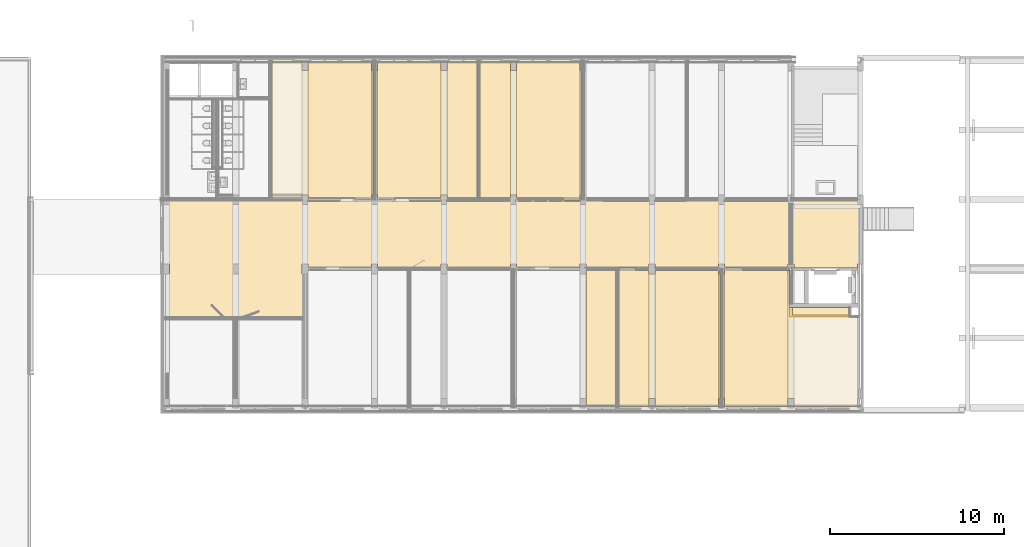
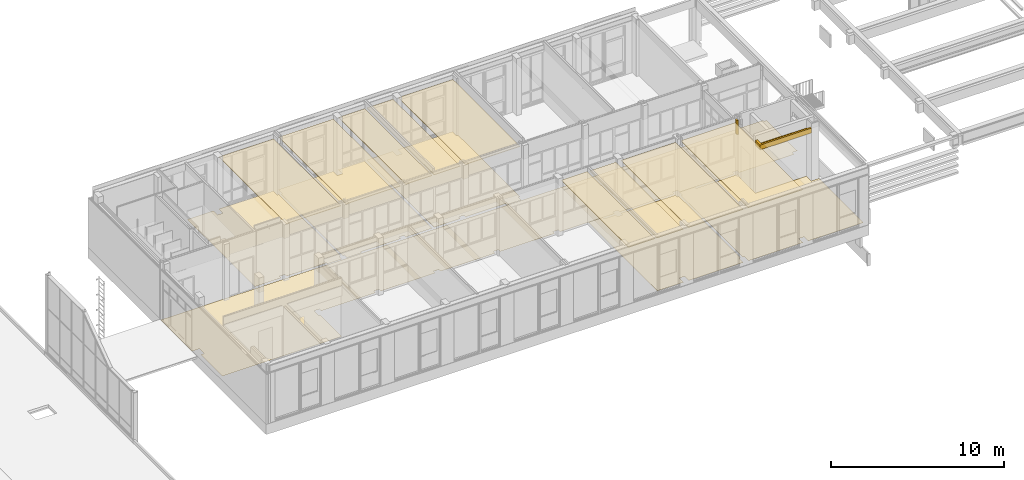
# One storey, part 45 of 54: 18 coverings.
"""IFC2X3 building model written with IfcOpenShell, lengths in millimetres."""

from ifc_helpers import new_model, entity, si_unit, converted_unit, derived_unit, money_unit, direction, frame, origin_with_axes, place, context, subcontext, project, spatial, faceted_brep, material, type_object, element, save


model = new_model("IFC2X3")

# Units and contexts
model_context = context("Model", 3, precision=0.01, world=origin_with_axes(), true_north=direction((0.0, 1.0)))
body_context = subcontext(model_context, "Body", "Model", "MODEL_VIEW")
ifc_project = project(units=[si_unit("LENGTHUNIT", "METRE", prefix="MILLI"), si_unit("AREAUNIT", "SQUARE_METRE"), si_unit("VOLUMEUNIT", "CUBIC_METRE"), converted_unit("PLANEANGLEUNIT", "DEGREE", entity("IfcPlaneAngleMeasure", 0.0174532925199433), si_unit("PLANEANGLEUNIT", "RADIAN"), dimensions=[0, 0, 0, 0, 0, 0, 0]), money_unit("EUR"), converted_unit("TIMEUNIT", "Year", entity("IfcTimeMeasure", 31557600.0), si_unit("TIMEUNIT", "SECOND"), dimensions=[0, 0, 1, 0, 0, 0, 0]), si_unit("MASSUNIT", "GRAM", prefix="KILO"), si_unit("THERMODYNAMICTEMPERATUREUNIT", "DEGREE_CELSIUS"), si_unit("LUMINOUSINTENSITYUNIT", "LUMEN"), si_unit("ENERGYUNIT", "JOULE", prefix="MEGA"), derived_unit("THERMALCONDUCTANCEUNIT", [(si_unit("POWERUNIT", "WATT"), 1), (si_unit("LENGTHUNIT", "METRE"), -1), (si_unit("THERMODYNAMICTEMPERATUREUNIT", "KELVIN"), -1)]), derived_unit("SPECIFICHEATCAPACITYUNIT", [(si_unit("ENERGYUNIT", "JOULE"), 1), (si_unit("MASSUNIT", "GRAM", prefix="KILO"), -1), (si_unit("THERMODYNAMICTEMPERATUREUNIT", "KELVIN"), -1)]), derived_unit("MASSDENSITYUNIT", [(si_unit("MASSUNIT", "GRAM", prefix="KILO"), 1), (si_unit("VOLUMEUNIT", "CUBIC_METRE"), -1)])], contexts=[model_context])

# Site, building, storey
site_placement = place(None, origin_with_axes())
site = spatial("IfcSite", under=ifc_project, at=site_placement, Name="<site naam>", CompositionType="ELEMENT")
building_placement = place(site_placement, origin_with_axes())
building = spatial("IfcBuilding", under=site, at=building_placement, Name="<Naam gebouw>", CompositionType="ELEMENT")
storey_placement = place(building_placement, frame((0.0, 0.0, 8500.0), z_axis=(0.0, 0.0, 1.0), x_axis=(1.0, 0.0, 0.0)))
storey = spatial("IfcBuildingStorey", under=building, at=storey_placement, Name="02 2e verdieping", CompositionType="ELEMENT", Elevation=8500.0)

# Coverings
ifc_material_1 = material(Name="systeemplafond 600*600 kleur wit")
covering_type_1 = type_object("IfcCoveringType", Name="PA-01a 40", PredefinedType="CEILING")
covering_1_placement = place(storey_placement, frame((24175.00012509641, 12275.00006165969, 3699.999999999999), z_axis=(0.0, 0.0, 1.0), x_axis=(1.0, 0.0, 0.0)))
element("IfcCovering", 1, at=covering_1_placement, inside=storey, type_object=covering_type_1, material=ifc_material_1, Name="45_Vloer_PA-01a", PredefinedType="CEILING", context=body_context, shape_type="Brep", body=[
    faceted_brep([(0.0, -182.9907721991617, 40.00000000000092), (0.0, -182.9907721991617, 0.0), (3649.999812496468, -182.9907721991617, 0.0), (3649.999812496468, -182.9907721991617, 40.00000000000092), (0.0, 7608.99992199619, 40.00000000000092), (0.0, 7608.99992199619, 0.0), (3649.999874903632, 7608.99992199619, 0.0), (3649.999874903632, 7174.999874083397, 0.0), (3650.019268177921, 7174.999874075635, 0.0), (3650.019268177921, 0.0, 0.0), (3649.999812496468, 0.0, 0.0), (3649.999812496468, 0.0, 40.00000000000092), (3650.019268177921, 0.0, 40.00000000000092), (3650.019268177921, 7174.999874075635, 40.00000000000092), (3649.999874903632, 7174.999874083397, 40.00000000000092), (3649.999874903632, 7608.99992199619, 40.00000000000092)], [[[0, 1, 2, 3]], [[4, 5, 1, 0]], [[1, 5, 6, 7, 8, 9, 10, 2]], [[3, 2, 10, 11]], [[0, 3, 11, 12, 13, 14, 15, 4]], [[15, 6, 5, 4]], [[14, 7, 6, 15]], [[13, 8, 7, 14]], [[12, 9, 8, 13]], [[11, 10, 9, 12]]]),
])
covering_2_placement = place(storey_placement, frame((31824.99990855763, 19924.99986616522, 3699.999999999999), z_axis=(0.0, 0.0, 1.0), x_axis=(1.0, 0.0, 0.0)))
element("IfcCovering", 2, at=covering_2_placement, inside=storey, type_object=covering_type_1, material=ifc_material_1, Name="45_Vloer_PA-01a", PredefinedType="CEILING", context=body_context, shape_type="Brep", body=[
    faceted_brep([(0.0, -7832.990463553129, 0.0), (0.0, -34.49986616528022, 0.0), (0.0, -34.49986616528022, 40.00000000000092), (0.0, -7832.990463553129, 40.00000000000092), (-1750.001682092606, -7832.990463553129, 0.0), (-1750.001682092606, -34.49986616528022, 0.0), (-1750.001682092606, -34.49986616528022, 39.99999999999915), (-1750.001682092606, -7832.990463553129, 40.00000000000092)], [[[0, 1, 2, 3]], [[4, 5, 1, 0]], [[5, 6, 2, 1]], [[3, 2, 6, 7]], [[3, 7, 4, 0]], [[7, 6, 5, 4]]]),
])
covering_3_placement = place(storey_placement, frame((39824.99997312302, 7923.199657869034, 3699.999999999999), z_axis=(0.0, 0.0, 1.0), x_axis=(1.0, 0.0, 0.0)))
element("IfcCovering", 3, at=covering_3_placement, inside=storey, type_object=covering_type_1, material=ifc_material_1, Name="45_Vloer_PA-01a", PredefinedType="CEILING", context=body_context, shape_type="Brep", body=[
    faceted_brep([(0.0, 0.0, 40.00000000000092), (0.0, 0.0, 0.0), (-1750.02700391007, 0.0, 0.0), (-1750.02700391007, 0.0, 40.00000000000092), (0.0, -7807.199657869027, 40.00000000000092), (0.0, -7807.199657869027, 0.0), (-1750.02700391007, -7807.199657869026, 0.0), (-1750.02700391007, -7807.199657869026, 40.00000000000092)], [[[0, 1, 2, 3]], [[4, 5, 1, 0]], [[2, 1, 5, 6]], [[3, 2, 6, 7]], [[0, 3, 7, 4]], [[7, 6, 5, 4]]]),
])
covering_4_placement = place(storey_placement, frame((44175.00020304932, 549.9997773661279, 3699.999999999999), z_axis=(0.0, 0.0, 1.0), x_axis=(1.0, 0.0, 0.0)))
element("IfcCovering", 4, at=covering_4_placement, inside=storey, type_object=covering_type_1, material=ifc_material_1, Name="45_Vloer_PA-01a", PredefinedType="CEILING", context=body_context, shape_type="Brep", body=[
    faceted_brep([(0.0, -433.999777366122, 40.00000000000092), (0.0, -433.999777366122, 0.0), (3649.999675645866, -433.9997773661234, 0.0), (3649.999675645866, -433.9997773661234, 40.00000000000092), (0.0, 7375.000184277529, 40.00000000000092), (0.0, 7375.000184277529, 0.0), (3649.999675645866, 7375.000184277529, 0.0), (3649.999675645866, 7375.000184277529, 40.00000000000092)], [[[0, 1, 2, 3]], [[4, 5, 1, 0]], [[1, 5, 6, 2]], [[3, 2, 6, 7]], [[0, 3, 7, 4]], [[7, 6, 5, 4]]]),
])
covering_5_placement = place(storey_placement, frame((40175.00009531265, 549.9998778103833, 3699.999999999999), z_axis=(0.0, 0.0, 1.0), x_axis=(1.0, 0.0, 0.0)))
element("IfcCovering", 5, at=covering_5_placement, inside=storey, type_object=covering_type_1, material=ifc_material_1, Name="45_Vloer_PA-01a", PredefinedType="CEILING", context=body_context, shape_type="Brep", body=[
    faceted_brep([(3649.999999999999, -433.9998778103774, 0.0), (3649.999999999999, 7387.500122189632, 0.0), (3649.999999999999, 7387.500122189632, 40.00000000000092), (3649.999999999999, -433.9998778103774, 40.00000000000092), (0.0, -433.9998778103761, 0.0), (0.0, 7387.500122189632, 0.0), (0.0, 7387.500122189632, 40.00000000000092), (0.0, -433.9998778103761, 40.00000000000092)], [[[0, 1, 2, 3]], [[4, 5, 1, 0]], [[5, 6, 2, 1]], [[3, 2, 6, 7]], [[3, 7, 4, 0]], [[7, 6, 5, 4]]]),
])
covering_6_placement = place(storey_placement, frame((36174.99987781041, 7923.199657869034, 3699.999999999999), z_axis=(0.0, 0.0, 1.0), x_axis=(1.0, 0.0, 0.0)))
element("IfcCovering", 6, at=covering_6_placement, inside=storey, type_object=covering_type_1, material=ifc_material_1, Name="45_Vloer_PA-01a", PredefinedType="CEILING", context=body_context, shape_type="Brep", body=[
    faceted_brep([(0.0, 0.0, 40.00000000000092), (0.0, 0.0, 0.0), (0.0, -7807.199657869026, 0.0), (0.0, -7807.199657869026, 40.00000000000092), (1748.760386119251, 0.0, 40.00000000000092), (1748.760386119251, 0.0, 0.0), (1748.760386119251, -7807.199657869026, 0.0), (1748.760386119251, -7807.199657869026, 40.00000000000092)], [[[0, 1, 2, 3]], [[4, 5, 1, 0]], [[1, 5, 6, 2]], [[3, 2, 6, 7]], [[4, 0, 3, 7]], [[7, 6, 5, 4]]]),
])
covering_7_placement = place(storey_placement, frame((20174.99998405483, 19449.99995761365, 3699.999999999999), z_axis=(0.0, 0.0, 1.0), x_axis=(1.0, 0.0, 0.0)))
element("IfcCovering", 7, at=covering_7_placement, inside=storey, type_object=covering_type_1, material=ifc_material_1, Name="45_Vloer_PA-01a", PredefinedType="CEILING", context=body_context, shape_type="Brep", body=[
    faceted_brep([(3649.999970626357, -7357.990671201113, 0.0), (3649.999970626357, 440.5000423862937, 0.0), (3649.999970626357, 440.5000423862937, 40.00000000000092), (3649.999970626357, -7357.990671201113, 40.00000000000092), (0.0, -7357.990671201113, 0.0), (0.0, 440.5000423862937, 0.0), (0.0, 440.5000423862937, 39.99999999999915), (0.0, -7357.990671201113, 40.00000000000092)], [[[0, 1, 2, 3]], [[4, 5, 1, 0]], [[5, 6, 2, 1]], [[3, 2, 6, 7]], [[3, 7, 4, 0]], [[7, 6, 5, 4]]]),
])
covering_8_placement = place(storey_placement, frame((28174.99991393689, 19449.99994196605, 3699.999999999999), z_axis=(0.0, 0.0, 1.0), x_axis=(1.0, 0.0, 0.0)))
element("IfcCovering", 8, at=covering_8_placement, inside=storey, type_object=covering_type_1, material=ifc_material_1, Name="45_Vloer_PA-01a", PredefinedType="CEILING", context=body_context, shape_type="Brep", body=[
    faceted_brep([(1749.91448178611, -7357.990652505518, 0.0), (1749.91448178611, 440.5000580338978, 0.0), (1749.91448178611, 440.5000580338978, 40.00000000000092), (1749.91448178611, -7357.990652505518, 40.00000000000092), (0.0, -7357.990652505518, 0.0), (0.0, 440.5000580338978, 0.0), (0.0, 440.5000580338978, 39.99999999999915), (0.0, -7357.990652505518, 40.00000000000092)], [[[0, 1, 2, 3]], [[4, 5, 1, 0]], [[5, 6, 2, 1]], [[3, 2, 6, 7]], [[3, 7, 4, 0]], [[7, 6, 5, 4]]]),
])
covering_9_placement = place(storey_placement, frame((32175.0000250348, 19924.99986616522, 3699.999999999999), z_axis=(0.0, 0.0, 1.0), x_axis=(1.0, 0.0, 0.0)))
element("IfcCovering", 9, at=covering_9_placement, inside=storey, type_object=covering_type_1, material=ifc_material_1, Name="45_Vloer_PA-01a", PredefinedType="CEILING", context=body_context, shape_type="Brep", body=[
    faceted_brep([(3649.999940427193, -7832.990463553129, 0.0), (3649.999940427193, -34.49986616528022, 0.0), (3649.999940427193, -34.49986616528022, 40.00000000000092), (3649.999940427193, -7832.990463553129, 40.00000000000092), (0.0, -7832.990463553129, 0.0), (0.0, -34.49986616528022, 0.0), (0.0, -34.49986616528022, 39.99999999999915), (0.0, -7832.990463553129, 40.00000000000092)], [[[0, 1, 2, 3]], [[4, 5, 1, 0]], [[5, 6, 2, 1]], [[3, 2, 6, 7]], [[3, 7, 4, 0]], [[7, 6, 5, 4]]]),
])
ifc_material_2 = material(Name="Vinyl type 01b")
covering_type_2 = type_object("IfcCoveringType", Name="VA-01b 3", PredefinedType="CEILING")
covering_10_placement = place(storey_placement, frame((11665.00000000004, 8275.591084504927, 0.0), z_axis=(0.0, 0.0, 1.0), x_axis=(1.0, 0.0, 0.0)))
element("IfcCovering", 10, at=covering_10_placement, inside=storey, type_object=covering_type_2, material=ifc_material_2, Name="43_Vloer_VA-01b", PredefinedType="CEILING", context=body_context, shape_type="Brep", body=[
    faceted_brep([(0.0, 0.0, 3.000000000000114), (0.0, 0.0, 0.0), (510.0000000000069, 0.0, 0.0), (510.0000000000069, 0.0, 3.000000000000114), (0.0, 3649.408915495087, 3.000000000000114), (0.0, 3649.408915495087, 0.0), (40334.99999999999, 3649.408915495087, 0.0), (40335.00000000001, 3549.408915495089, 0.0), (40509.39999999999, 3549.408915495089, 0.0), (40509.39999999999, -0.591027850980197, 0.0), (40160.00000000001, -0.5910845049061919, 0.0), (40160.00000000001, -220.591085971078, 0.0), (36510.00000000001, -220.591085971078, 0.0), (36510.00000000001, -0.5910845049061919, 0.0), (36160.00000000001, -0.5910845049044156, 0.0), (36159.999999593, -200.5910924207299, 0.0), (32510.0, -200.5910849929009, 0.0), (32510.0, -0.5910845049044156, 0.0), (32160.00000000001, -0.5910845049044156, 0.0), (32160.00000000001, -200.5910842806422, 0.0), (28510.0, -200.5910768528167, 0.0), (28510.0, -0.5910845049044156, 0.0), (28160.00000000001, -0.5910845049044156, 0.0), (28160.00000000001, -200.591076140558, 0.0), (24510.0, -200.591068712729, 0.0), (24510.0, -0.5910845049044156, 0.0), (24160.00000000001, -0.5910845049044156, 0.0), (24160.00000000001, -200.5910680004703, 0.0), (20510.0, -200.5910605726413, 0.0), (20510.0, -0.5910845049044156, 0.0), (20160.0, -0.5910845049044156, 0.0), (20160.0, -200.5910598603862, 0.0), (16510.0, -200.5910524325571, 0.0), (16510.0, -0.5910845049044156, 0.0), (16160.0, -0.5910845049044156, 0.0), (16160.0, -200.591051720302, 0.0), (12510.00000000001, -200.591044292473, 0.0), (12510.00000000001, -0.5910845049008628, 0.0), (12160.0, -0.5910845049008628, 0.0), (12160.0, -200.5910435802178, 0.0), (8510.000000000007, -200.5910361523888, 0.0), (8510.000000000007, -0.5910845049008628, 0.0), (8160.000000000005, -0.5910845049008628, 0.0), (8160.000000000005, -550.5910845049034, 0.0), (8258.720922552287, -550.5910845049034, 0.0), (8258.720978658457, -3050.5910845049, 0.0), (270.0000000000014, -3050.5910845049, 0.0), (270.0000000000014, -550.5910845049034, 0.0), (510.0000000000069, -550.5910845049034, 0.0), (510.0000000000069, -550.5910845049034, 3.000000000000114), (270.0000000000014, -550.5910845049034, 3.000000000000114), (270.0000000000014, -3050.5910845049, 3.000000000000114), (8258.720978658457, -3050.5910845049, 3.000000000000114), (8258.720922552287, -550.5910845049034, 3.000000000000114), (8160.000000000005, -550.5910845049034, 3.000000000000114), (8160.000000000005, -0.5910845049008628, 3.000000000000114), (8510.000000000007, -0.5910845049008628, 3.000000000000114), (8510.000000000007, -200.5910361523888, 3.000000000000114), (12160.0, -200.5910435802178, 3.000000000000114), (12160.0, -0.5910845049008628, 3.000000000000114), (12510.00000000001, -0.5910845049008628, 3.000000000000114), (12510.00000000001, -200.591044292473, 3.000000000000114), (16160.0, -200.591051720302, 3.000000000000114), (16160.0, -0.5910845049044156, 3.000000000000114), (16510.0, -0.5910845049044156, 3.000000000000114), (16510.0, -200.5910524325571, 3.000000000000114), (20160.0, -200.5910598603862, 3.000000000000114), (20160.0, -0.5910845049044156, 3.000000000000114), (20510.0, -0.5910845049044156, 3.000000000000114), (20510.0, -200.5910605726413, 3.000000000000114), (24160.00000000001, -200.5910680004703, 3.000000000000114), (24160.00000000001, -0.5910845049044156, 3.000000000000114), (24510.0, -0.5910845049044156, 3.000000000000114), (24510.0, -200.591068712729, 3.000000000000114), (28160.00000000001, -200.591076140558, 3.000000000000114), (28160.00000000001, -0.5910845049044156, 3.000000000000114), (28510.0, -0.5910845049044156, 3.000000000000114), (28510.0, -200.5910768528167, 3.000000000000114), (32160.00000000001, -200.5910842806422, 3.000000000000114), (32160.00000000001, -0.5910845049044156, 3.000000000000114), (32510.0, -0.5910845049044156, 3.000000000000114), (32510.0, -200.5910849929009, 3.000000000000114), (36159.999999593, -200.5910924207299, 3.000000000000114), (36160.00000000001, -0.5910845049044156, 3.000000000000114), (36510.00000000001, -0.5910845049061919, 3.000000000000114), (36510.00000000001, -220.591085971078, 3.000000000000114), (40160.00000000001, -220.591085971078, 3.000000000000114), (40160.00000000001, -0.5910845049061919, 3.000000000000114), (40509.39999999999, -0.591027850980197, 3.000000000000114), (40509.39999999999, 3549.408915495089, 3.000000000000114), (40335.00000000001, 3549.408915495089, 3.000000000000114), (40334.99999999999, 3649.408915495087, 3.000000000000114)], [[[0, 1, 2, 3]], [[4, 5, 1, 0]], [[1, 5, 6, 7, 8, 9, 10, 11, 12, 13, 14, 15, 16, 17, 18, 19, 20, 21, 22, 23, 24, 25, 26, 27, 28, 29, 30, 31, 32, 33, 34, 35, 36, 37, 38, 39, 40, 41, 42, 43, 44, 45, 46, 47, 48, 2]], [[3, 2, 48, 49]], [[0, 3, 49, 50, 51, 52, 53, 54, 55, 56, 57, 58, 59, 60, 61, 62, 63, 64, 65, 66, 67, 68, 69, 70, 71, 72, 73, 74, 75, 76, 77, 78, 79, 80, 81, 82, 83, 84, 85, 86, 87, 88, 89, 90, 91, 4]], [[91, 6, 5, 4]], [[90, 7, 6, 91]], [[89, 8, 7, 90]], [[88, 9, 8, 89]], [[87, 10, 9, 88]], [[86, 11, 10, 87]], [[85, 12, 11, 86]], [[84, 13, 12, 85]], [[83, 14, 13, 84]], [[82, 15, 14, 83]], [[81, 16, 15, 82]], [[80, 17, 16, 81]], [[79, 18, 17, 80]], [[78, 19, 18, 79]], [[77, 20, 19, 78]], [[76, 21, 20, 77]], [[75, 22, 21, 76]], [[74, 23, 22, 75]], [[73, 24, 23, 74]], [[72, 25, 24, 73]], [[71, 26, 25, 72]], [[70, 27, 26, 71]], [[69, 28, 27, 70]], [[68, 29, 28, 69]], [[67, 30, 29, 68]], [[66, 31, 30, 67]], [[65, 32, 31, 66]], [[64, 33, 32, 65]], [[63, 34, 33, 64]], [[62, 35, 34, 63]], [[61, 36, 35, 62]], [[60, 37, 36, 61]], [[59, 38, 37, 60]], [[58, 39, 38, 59]], [[57, 40, 39, 58]], [[56, 41, 40, 57]], [[55, 42, 41, 56]], [[54, 43, 42, 55]], [[53, 44, 43, 54]], [[52, 45, 44, 53]], [[51, 46, 45, 52]], [[50, 47, 46, 51]], [[49, 48, 47, 50]]]),
])
ifc_material_3 = material(Name="Vinyl type 01a")
covering_type_3 = type_object("IfcCoveringType", Name="VA-01a 3", PredefinedType="CEILING")
covering_11_placement = place(storey_placement, frame((19825.00009490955, 19924.99985320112, 19.99999999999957), z_axis=(0.0, 0.0, 1.0), x_axis=(1.0, 0.0, 0.0)))
element("IfcCovering", 11, at=covering_11_placement, inside=storey, type_object=covering_type_3, material=ifc_material_3, Name="43_Vloer_VA-01a", PredefinedType="CEILING", context=body_context, shape_type="Brep", body=[
    faceted_brep([(0.0, 0.0, 3.000000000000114), (0.0, 0.0, 0.0), (-1749.899402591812, 0.0, 0.0), (-1749.899402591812, 0.0, 3.000000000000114), (0.0, -475.0001066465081, 3.000000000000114), (0.0, -475.0001066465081, 0.0), (349.9998915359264, -475.0001066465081, 0.0), (349.9998915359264, 0.0, 0.0), (3999.999657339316, 0.0, 0.0), (3999.999657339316, -475.0001066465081, 0.0), (4099.986561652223, -475.0001066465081, 0.0), (4099.986561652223, -7649.999778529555, 0.0), (3999.999657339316, -7649.999778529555, 0.0), (3999.999657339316, -7949.861575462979, 0.0), (3055.231686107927, -7949.861575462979, 0.0), (3055.231686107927, -7839.817104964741, 0.0), (349.9998915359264, -7839.817104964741, 0.0), (349.9998915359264, -7649.999778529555, 0.0), (0.0, -7649.999778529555, 0.0), (0.0, -7839.817104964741, 0.0), (-1749.899402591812, -7839.817104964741, 0.0), (-1749.899402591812, -7839.817104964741, 3.000000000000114), (0.0, -7839.817104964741, 3.000000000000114), (0.0, -7649.999778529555, 3.000000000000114), (349.9998915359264, -7649.999778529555, 3.000000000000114), (349.9998915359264, -7839.817104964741, 3.000000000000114), (3055.231686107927, -7839.817104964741, 3.000000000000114), (3055.231686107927, -7949.861575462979, 3.000000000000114), (3999.999657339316, -7949.861575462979, 3.000000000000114), (3999.999657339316, -7649.999778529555, 3.000000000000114), (4099.986561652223, -7649.999778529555, 3.000000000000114), (4099.986561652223, -475.0001066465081, 3.000000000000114), (3999.999657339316, -475.0001066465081, 3.000000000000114), (3999.999657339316, 0.0, 3.000000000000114), (349.9998915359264, 0.0, 3.000000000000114), (349.9998915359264, -475.0001066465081, 3.000000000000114)], [[[0, 1, 2, 3]], [[4, 5, 1, 0]], [[2, 1, 5, 6, 7, 8, 9, 10, 11, 12, 13, 14, 15, 16, 17, 18, 19, 20]], [[3, 2, 20, 21]], [[4, 0, 3, 21, 22, 23, 24, 25, 26, 27, 28, 29, 30, 31, 32, 33, 34, 35]], [[35, 6, 5, 4]], [[34, 7, 6, 35]], [[33, 8, 7, 34]], [[32, 9, 8, 33]], [[31, 10, 9, 32]], [[30, 11, 10, 31]], [[29, 12, 11, 30]], [[28, 13, 12, 29]], [[27, 14, 13, 28]], [[26, 15, 14, 27]], [[25, 16, 15, 26]], [[24, 17, 16, 25]], [[23, 18, 17, 24]], [[22, 19, 18, 23]], [[21, 20, 19, 22]]]),
])
covering_12_placement = place(storey_placement, frame((44075.00011639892, 549.9993244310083, 0.0), z_axis=(0.0, 0.0, 1.0), x_axis=(1.0, 0.0, 0.0)))
element("IfcCovering", 12, at=covering_12_placement, inside=storey, type_object=covering_type_3, material=ifc_material_3, Name="43_Vloer_VA-01a", PredefinedType="CEILING", context=body_context, shape_type="Brep", body=[
    faceted_brep([(0.0, 0.0, 3.000000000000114), (0.0, 0.0, 0.0), (99.99996363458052, 0.0005028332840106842, 0.0), (99.99996363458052, 0.0005028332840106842, 3.000000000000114), (0.0, 7175.00103632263, 3.000000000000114), (0.0, 7175.00103632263, 0.0), (99.99996363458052, 7175.000659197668, 0.0), (99.99996363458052, 7525.000657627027, 0.0), (1133.999803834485, 7525.000657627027, 0.0), (1133.999803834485, 7371.61614134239, 0.0), (3909.506027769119, 7371.61614134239, 0.0), (3909.506027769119, 7175.000659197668, 0.0), (3849.999857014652, 7175.000659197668, 0.0), (3849.999857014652, 5241.000674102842, 0.0), (7277.499883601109, 5241.000674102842, 0.0), (7277.499883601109, 4678.500674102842, 0.0), (7789.999832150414, 4678.500674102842, 0.0), (7789.999832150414, -474.999324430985, 0.0), (4099.999766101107, -474.999324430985, 0.0), (4099.999766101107, 0.0005028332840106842, 0.0), (3749.999893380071, 0.0005028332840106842, 0.0), (3749.999893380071, -474.999324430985, 0.0), (99.99996363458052, -474.999324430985, 0.0), (99.99996363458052, -474.999324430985, 3.000000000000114), (3749.999893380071, -474.999324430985, 3.000000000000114), (3749.999893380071, 0.0005028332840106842, 3.000000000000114), (4099.999766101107, 0.0005028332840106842, 3.000000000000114), (4099.999766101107, -474.999324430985, 3.000000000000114), (7789.999832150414, -474.999324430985, 3.000000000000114), (7789.999832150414, 4678.500674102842, 3.000000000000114), (7277.499883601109, 4678.500674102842, 3.000000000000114), (7277.499883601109, 5241.000674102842, 3.000000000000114), (3849.999857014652, 5241.000674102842, 3.000000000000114), (3849.999857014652, 7175.000659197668, 3.000000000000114), (3909.506027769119, 7175.000659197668, 3.000000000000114), (3909.506027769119, 7371.61614134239, 3.000000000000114), (1133.999803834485, 7371.61614134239, 3.000000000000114), (1133.999803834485, 7525.000657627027, 3.000000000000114), (99.99996363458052, 7525.000657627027, 3.000000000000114), (99.99996363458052, 7175.000659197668, 3.000000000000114)], [[[0, 1, 2, 3]], [[4, 5, 1, 0]], [[2, 1, 5, 6, 7, 8, 9, 10, 11, 12, 13, 14, 15, 16, 17, 18, 19, 20, 21, 22]], [[3, 2, 22, 23]], [[4, 0, 3, 23, 24, 25, 26, 27, 28, 29, 30, 31, 32, 33, 34, 35, 36, 37, 38, 39]], [[39, 6, 5, 4]], [[38, 7, 6, 39]], [[37, 8, 7, 38]], [[36, 9, 8, 37]], [[35, 10, 9, 36]], [[34, 11, 10, 35]], [[33, 12, 11, 34]], [[32, 13, 12, 33]], [[31, 14, 13, 32]], [[30, 15, 14, 31]], [[29, 16, 15, 30]], [[28, 17, 16, 29]], [[27, 18, 17, 28]], [[26, 19, 18, 27]], [[25, 20, 19, 26]], [[24, 21, 20, 25]], [[23, 22, 21, 24]]]),
])
covering_13_placement = place(storey_placement, frame((39825.00005437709, 7923.302907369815, 0.0), z_axis=(0.0, 0.0, 1.0), x_axis=(1.0, 0.0, 0.0)))
element("IfcCovering", 13, at=covering_13_placement, inside=storey, type_object=covering_type_3, material=ifc_material_3, Name="43_Vloer_VA-01a", PredefinedType="CEILING", context=body_context, shape_type="Brep", body=[
    faceted_brep([(0.0, 0.0, 3.000000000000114), (0.0, 0.0, 0.0), (-782.5004669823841, 1.696302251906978, 0.0), (-782.5004669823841, 1.696302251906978, 3.000000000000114), (0.0, -198.3029974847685, 3.000000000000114), (0.0, -198.3029974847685, 0.0), (349.9999670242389, -198.3029974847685, 0.0), (349.9999670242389, -1.687389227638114, 0.0), (4000.000026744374, -1.687389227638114, 0.0), (4000.000026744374, -198.3029974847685, 0.0), (4100.056144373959, -198.3024677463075, 0.0), (4100.056144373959, -7373.303557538, 0.0), (4000.000026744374, -7373.303027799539, 0.0), (4000.000026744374, -7848.302907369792, 0.0), (349.9999670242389, -7848.302907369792, 0.0), (349.9999670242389, -7373.303027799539, 0.0), (0.0, -7373.303027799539, 0.0), (0.0, -7848.302907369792, 0.0), (-1750.027028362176, -7848.302907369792, 0.0), (-1750.027028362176, 149.4677908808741, 0.0), (-782.8653621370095, 151.818624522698, 0.0), (-782.8653621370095, 151.818624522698, 3.000000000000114), (-1750.027028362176, 149.4677908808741, 3.000000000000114), (-1750.027028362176, -7848.302907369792, 3.000000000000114), (0.0, -7848.302907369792, 3.000000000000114), (0.0, -7373.303027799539, 3.000000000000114), (349.9999670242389, -7373.303027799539, 3.000000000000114), (349.9999670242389, -7848.302907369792, 3.000000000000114), (4000.000026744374, -7848.302907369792, 3.000000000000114), (4000.000026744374, -7373.303027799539, 3.000000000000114), (4100.056144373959, -7373.303557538, 3.000000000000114), (4100.056144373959, -198.3024677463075, 3.000000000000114), (4000.000026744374, -198.3029974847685, 3.000000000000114), (4000.000026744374, -1.687389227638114, 3.000000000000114), (349.9999670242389, -1.687389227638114, 3.000000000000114), (349.9999670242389, -198.3029974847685, 3.000000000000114)], [[[0, 1, 2, 3]], [[4, 5, 1, 0]], [[2, 1, 5, 6, 7, 8, 9, 10, 11, 12, 13, 14, 15, 16, 17, 18, 19, 20]], [[3, 2, 20, 21]], [[4, 0, 3, 21, 22, 23, 24, 25, 26, 27, 28, 29, 30, 31, 32, 33, 34, 35]], [[35, 6, 5, 4]], [[34, 7, 6, 35]], [[33, 8, 7, 34]], [[32, 9, 8, 33]], [[31, 10, 9, 32]], [[30, 11, 10, 31]], [[29, 12, 11, 30]], [[28, 13, 12, 29]], [[27, 14, 13, 28]], [[26, 15, 14, 27]], [[25, 16, 15, 26]], [[24, 17, 16, 25]], [[23, 18, 17, 24]], [[22, 19, 18, 23]], [[21, 20, 19, 22]]]),
])
covering_14_placement = place(storey_placement, frame((24075.02478981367, 19450.00008625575, 0.0), z_axis=(0.0, 0.0, 1.0), x_axis=(1.0, 0.0, 0.0)))
element("IfcCovering", 14, at=covering_14_placement, inside=storey, type_object=covering_type_3, material=ifc_material_3, Name="43_Vloer_VA-01a", PredefinedType="CEILING", context=body_context, shape_type="Brep", body=[
    faceted_brep([(0.0, 0.0, 3.000000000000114), (0.0, 0.0, 0.0), (0.0, -7174.999961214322, 0.0), (0.0, -7174.999961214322, 3.000000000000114), (99.9945449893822, 0.0, 3.000000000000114), (99.9945449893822, 0.0, 0.0), (99.9945449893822, 474.9998632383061, 0.0), (3760.608774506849, 474.9998632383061, 0.0), (3760.608774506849, 0.0, 0.0), (4099.975312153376, 0.0, 0.0), (4099.975312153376, 474.9998632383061, 0.0), (5849.889566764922, 474.9998632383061, 0.0), (5849.889566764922, -7364.817173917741, 0.0), (4099.975312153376, -7364.817173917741, 0.0), (4099.975312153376, -7174.999961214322, 0.0), (3749.975207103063, -7174.999961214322, 0.0), (3749.975207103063, -7364.817173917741, 0.0), (1067.712104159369, -7364.817173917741, 0.0), (1067.712104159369, -7477.636299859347, 0.0), (99.97511039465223, -7477.636299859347, 0.0), (99.97511039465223, -7174.999961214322, 0.0), (99.97511039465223, -7174.999961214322, 3.000000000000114), (99.97511039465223, -7477.636299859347, 3.000000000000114), (1067.712104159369, -7477.636299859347, 3.000000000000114), (1067.712104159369, -7364.817173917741, 3.000000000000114), (3749.975207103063, -7364.817173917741, 3.000000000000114), (3749.975207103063, -7174.999961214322, 3.000000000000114), (4099.975312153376, -7174.999961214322, 3.000000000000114), (4099.975312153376, -7364.817173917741, 3.000000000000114), (5849.889566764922, -7364.817173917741, 3.000000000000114), (5849.889566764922, 474.9998632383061, 3.000000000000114), (4099.975312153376, 474.9998632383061, 3.000000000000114), (4099.975312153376, 0.0, 3.000000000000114), (3760.608774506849, 0.0, 3.000000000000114), (3760.608774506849, 474.9998632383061, 3.000000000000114), (99.9945449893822, 474.9998632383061, 3.000000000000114)], [[[0, 1, 2, 3]], [[4, 5, 1, 0]], [[2, 1, 5, 6, 7, 8, 9, 10, 11, 12, 13, 14, 15, 16, 17, 18, 19, 20]], [[3, 2, 20, 21]], [[4, 0, 3, 21, 22, 23, 24, 25, 26, 27, 28, 29, 30, 31, 32, 33, 34, 35]], [[35, 6, 5, 4]], [[34, 7, 6, 35]], [[33, 8, 7, 34]], [[32, 9, 8, 33]], [[31, 10, 9, 32]], [[30, 11, 10, 31]], [[29, 12, 11, 30]], [[28, 13, 12, 29]], [[27, 14, 13, 28]], [[26, 15, 14, 27]], [[25, 16, 15, 26]], [[24, 17, 16, 25]], [[23, 18, 17, 24]], [[22, 19, 18, 23]], [[21, 20, 19, 22]]]),
])
covering_15_placement = place(storey_placement, frame((31825.00006492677, 19924.99978721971, 19.99999999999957), z_axis=(0.0, 0.0, 1.0), x_axis=(1.0, 0.0, 0.0)))
element("IfcCovering", 15, at=covering_15_placement, inside=storey, type_object=covering_type_3, material=ifc_material_3, Name="43_Vloer_VA-01a", PredefinedType="CEILING", context=body_context, shape_type="Brep", body=[
    faceted_brep([(0.0, 0.0, 3.000000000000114), (0.0, 0.0, 0.0), (-1750.001838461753, 0.0, 0.0), (-1750.001838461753, 0.0, 3.000000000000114), (0.0, -474.9996148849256, 3.000000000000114), (0.0, -474.9996148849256, 0.0), (350.0000106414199, -474.9996148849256, 0.0), (350.0000106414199, 0.0, 0.0), (4000.000070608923, 0.0, 0.0), (4000.000070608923, -474.9996148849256, 0.0), (4099.9999206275, -475.0004480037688, 0.0), (4099.9999206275, -7649.999654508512, 0.0), (4000.000070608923, -7649.999654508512, 0.0), (4000.000070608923, -7987.086561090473, 0.0), (3049.500136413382, -7987.086561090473, 0.0), (3049.500136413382, -7839.816737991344, 0.0), (350.0000106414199, -7839.816737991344, 0.0), (350.0000106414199, -7649.999654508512, 0.0), (0.0, -7649.999654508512, 0.0), (0.0, -7839.816737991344, 0.0), (-1750.001838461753, -7839.816737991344, 0.0), (-1750.001838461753, -7839.816737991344, 3.000000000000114), (0.0, -7839.816737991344, 3.000000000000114), (0.0, -7649.999654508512, 3.000000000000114), (350.0000106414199, -7649.999654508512, 3.000000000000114), (350.0000106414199, -7839.816737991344, 3.000000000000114), (3049.500136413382, -7839.816737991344, 3.000000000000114), (3049.500136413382, -7987.086561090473, 3.000000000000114), (4000.000070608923, -7987.086561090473, 3.000000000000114), (4000.000070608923, -7649.999654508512, 3.000000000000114), (4099.9999206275, -7649.999654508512, 3.000000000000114), (4099.9999206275, -475.0004480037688, 3.000000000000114), (4000.000070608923, -474.9996148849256, 3.000000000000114), (4000.000070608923, 0.0, 3.000000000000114), (350.0000106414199, 0.0, 3.000000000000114), (350.0000106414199, -474.9996148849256, 3.000000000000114)], [[[0, 1, 2, 3]], [[4, 5, 1, 0]], [[2, 1, 5, 6, 7, 8, 9, 10, 11, 12, 13, 14, 15, 16, 17, 18, 19, 20]], [[3, 2, 20, 21]], [[4, 0, 3, 21, 22, 23, 24, 25, 26, 27, 28, 29, 30, 31, 32, 33, 34, 35]], [[35, 6, 5, 4]], [[34, 7, 6, 35]], [[33, 8, 7, 34]], [[32, 9, 8, 33]], [[31, 10, 9, 32]], [[30, 11, 10, 31]], [[29, 12, 11, 30]], [[28, 13, 12, 29]], [[27, 14, 13, 28]], [[26, 15, 14, 27]], [[25, 16, 15, 26]], [[24, 17, 16, 25]], [[23, 18, 17, 24]], [[22, 19, 18, 23]], [[21, 20, 19, 22]]]),
])
ifc_material_4 = material(Name="aftimmering/koven multiplex")
covering_type_4 = type_object("IfcCoveringType", Name="aftimmering/koven multiplex 20", PredefinedType="CEILING")
covering_16_placement = place(storey_placement, frame((51352.50000000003, 5791.000023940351, 3400.0), z_axis=(0.0, 0.0, 1.0), x_axis=(1.0, 0.0, 0.0)))
element("IfcCovering", 16, at=covering_16_placement, inside=storey, type_object=covering_type_4, material=ifc_material_4, Name="45_Vloer_aftimmering/koven", PredefinedType="CEILING", context=body_context, shape_type="Brep", body=[
    faceted_brep([(0.0, 0.0, 19.99999999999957), (0.0, 0.0, 0.0), (-3427.500025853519, 0.0, 0.0), (-3427.500025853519, 0.0, 19.99999999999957), (0.0, -562.5000254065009, 19.99999999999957), (0.0, -562.5000254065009, 0.0), (-3427.500025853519, -562.5000254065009, 0.0), (-3427.500025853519, -562.5000254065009, 19.99999999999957)], [[[0, 1, 2, 3]], [[4, 5, 1, 0]], [[2, 1, 5, 6]], [[3, 2, 6, 7]], [[4, 0, 3, 7]], [[7, 6, 5, 4]]]),
])
covering_type_5 = type_object("IfcCoveringType", Name="aftimmering/koven multiplex 1050", PredefinedType="CEILING")
covering_17_placement = place(storey_placement, frame((47825.00000000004, 7925.000016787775, 3000.0), z_axis=(0.0, 0.0, 1.0), x_axis=(1.0, 0.0, 0.0)))
element("IfcCovering", 17, at=covering_17_placement, inside=storey, type_object=covering_type_5, material=ifc_material_4, Name="45_Vloer_aftimmering/koven", PredefinedType="CEILING", context=body_context, shape_type="Brep", body=[
    faceted_brep([(0.0, 0.0, 990.0000000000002), (99.99997414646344, 0.0, 990.0000000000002), (99.99997414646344, 0.0, 0.0), (0.0, 0.0, 0.0), (99.99997414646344, -200.0000167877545, 990.0000000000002), (0.0, -200.0000167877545, 990.0000000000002), (99.99997414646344, -200.0000008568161, 0.0), (0.0, -200.0000008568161, 0.0)], [[[0, 1, 2, 3]], [[4, 1, 0, 5]], [[1, 4, 6, 2]], [[6, 7, 3, 2]], [[5, 0, 3, 7]], [[4, 5, 7, 6]]]),
])
covering_type_6 = type_object("IfcCoveringType", Name="aftimmering/koven multiplex 340", PredefinedType="CEILING")
covering_18_placement = place(storey_placement, frame((51352.50000000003, 5340.999998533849, 3400.0), z_axis=(0.0, 0.0, 1.0), x_axis=(1.0, 0.0, 0.0)))
element("IfcCovering", 18, at=covering_18_placement, inside=storey, type_object=covering_type_6, material=ifc_material_4, Name="45_Vloer_aftimmering/koven", PredefinedType="CEILING", context=body_context, shape_type="Brep", body=[
    faceted_brep([(0.0, 0.0, 339.9999999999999), (0.0, 0.0, 0.0), (-3277.499999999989, 0.0, 0.0), (-3277.499999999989, 0.0, 339.9999999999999), (0.0, -112.4999999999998, 339.9999999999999), (0.0, -112.4999999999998, 0.0), (-3427.500025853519, -112.4999999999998, 0.0), (-3427.500025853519, 450.0000254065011, 0.0), (-3277.499999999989, 450.0000254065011, 0.0), (-3277.499999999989, 450.0000254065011, 339.9999999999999), (-3427.500025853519, 450.0000254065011, 339.9999999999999), (-3427.500025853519, -112.4999999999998, 339.9999999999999)], [[[0, 1, 2, 3]], [[4, 5, 1, 0]], [[2, 1, 5, 6, 7, 8]], [[3, 2, 8, 9]], [[4, 0, 3, 9, 10, 11]], [[11, 6, 5, 4]], [[10, 7, 6, 11]], [[9, 8, 7, 10]]]),
])

save(model, "model.ifc")
